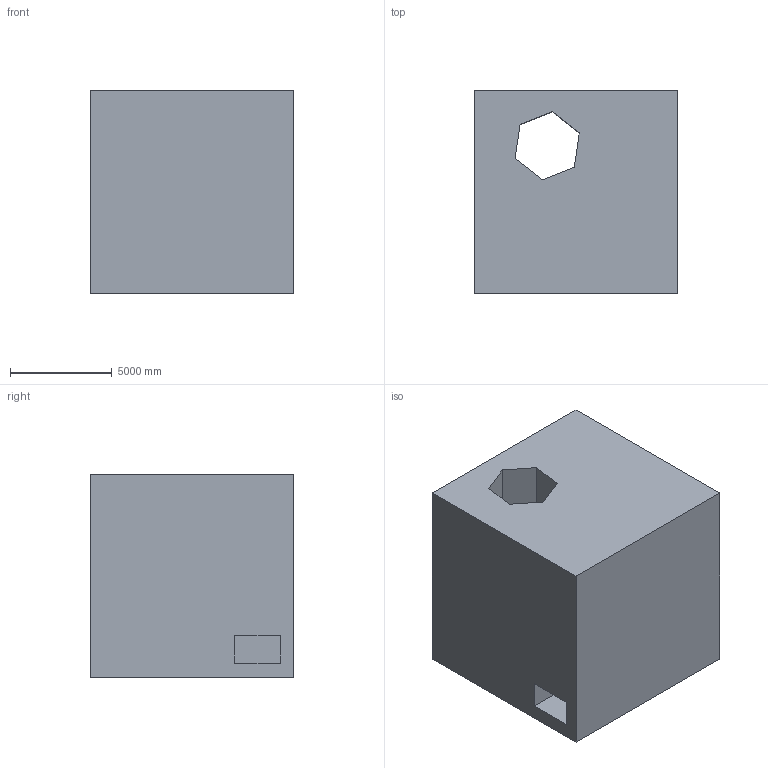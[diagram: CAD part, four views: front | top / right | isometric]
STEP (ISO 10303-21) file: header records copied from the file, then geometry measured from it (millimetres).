
FILE_DESCRIPTION (( 'STEP AP203' ), '1' );
FILE_NAME ('245.STEP', '2022-07-28T14:05:07', ( 'user' ), ( '' ), 'SwSTEP 2.0', 'SolidWorks 2021', '' );
FILE_SCHEMA (( 'CONFIG_CONTROL_DESIGN' ));
Length unit declared in the file: centimetre
Products named in the file (1): 245
Bounding box: 10000 x 10000 x 10000 mm (x, y, z)
Volume: 879234978800.6 mm3; surface area: 753651439.1 mm2
Topology: 1 solids, 1 shells, 20 faces, 51 edges, 34 vertices
Faces by surface type: plane 18, cylinder 2
Entity records: 685 total; most frequent: CARTESIAN_POINT 109, ORIENTED_EDGE 102, DIRECTION 97, EDGE_CURVE 51, VECTOR 45, LINE 45, VERTEX_POINT 34, AXIS2_PLACEMENT_3D 26
